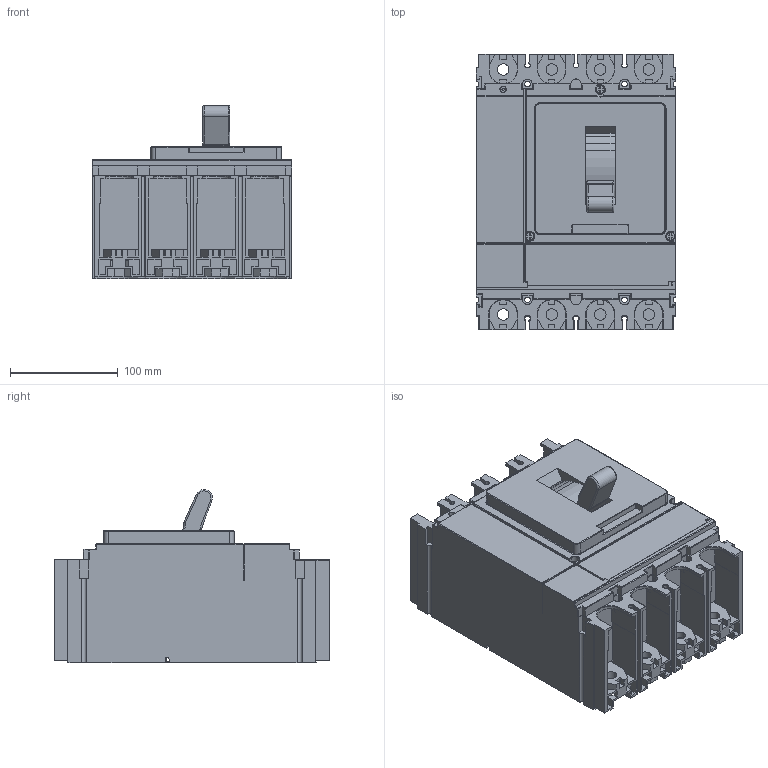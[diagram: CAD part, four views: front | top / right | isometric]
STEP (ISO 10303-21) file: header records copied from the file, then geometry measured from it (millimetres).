
FILE_DESCRIPTION((''),'2;1');
FILE_NAME('ASM0003_ASM','2020-12-15T17:01:34',('user-pc'),('Schneider-Electric'),'CREO PARAMETRIC BY PTC INC, 2018300','CREO PARAMETRIC BY PTC INC, 2018300','');
FILE_SCHEMA(('CONFIG_CONTROL_DESIGN'));
Length unit declared in the file: millimetre
Products named in the file (2): C63W42D630_3D-SIMPLIFIED; ASM0003_ASM
Assembly tree (1 placements, depth 2):
  ASM0003_ASM
    C63W42D630_3D-SIMPLIFIED
Bounding box: 184.74 x 255 x 160.51 mm (x, y, z)
Volume: 4426138.1 mm3; surface area: 309445.7 mm2
Topology: 1 solids, 1 shells, 1234 faces, 3513 edges, 2307 vertices
Faces by surface type: plane 830, cylinder 334, torus 26, sphere 26, bspline 12, extrusion 6
Entity records: 41616 total; most frequent: CARTESIAN_POINT 9075, ORIENTED_EDGE 6982, DIRECTION 6549, EDGE_CURVE 3491, VECTOR 2631, LINE 2625, VERTEX_POINT 2307, AXIS2_PLACEMENT_3D 1959
